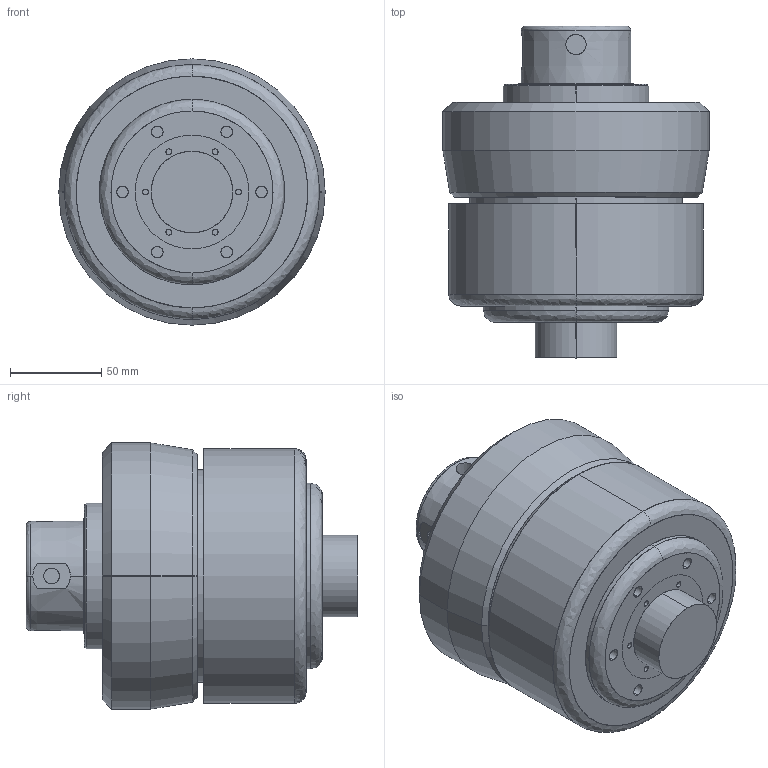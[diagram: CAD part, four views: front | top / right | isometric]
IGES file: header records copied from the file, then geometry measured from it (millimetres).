
Start section: SolidWorks IGES file using analytic representation for surfaces
Global section: file name: \\server\Users\Karen.Bodily\My Documents\defeatured\DBH060 TOP MOUNT.IGS; native system: SolidWorks 2012; preprocessor: SolidWorks 2012; author: karen.bodily; date: 130424.125505; units: inch
Bounding box: 146.05 x 181.99 x 146.05 mm (x, y, z)
Surface area: 103286.9 mm2 (no closed solid volume)
Topology: 0 solids, 0 shells, 123 faces, 3299 edges, 3299 vertices
Faces by surface type: revolution 79, bspline 44
